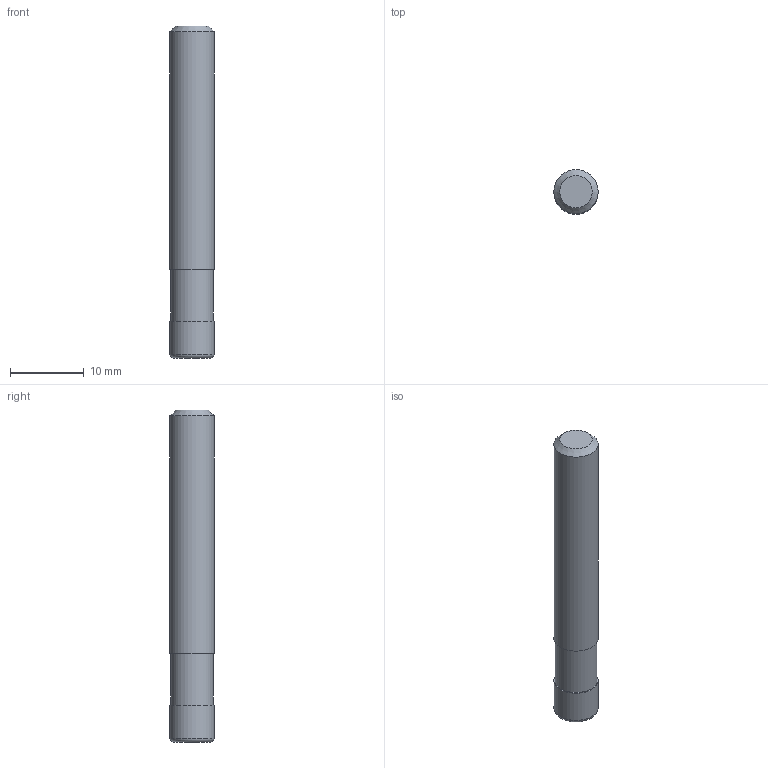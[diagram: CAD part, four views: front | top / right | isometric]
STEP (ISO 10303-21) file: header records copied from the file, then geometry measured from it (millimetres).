
FILE_DESCRIPTION((''),'2;1');
FILE_NAME('C:\Users\nsx150\AppData\Local\Temp\Mastercam 2021\8MCJJJGUOI\TEMP.step','2022-10-12T10:46:52',(''),(''),'STEP Write','Mastercam 2021 ... CNC Software, Inc.','');
FILE_SCHEMA(('AUTOMOTIVE_DESIGN'));
Length unit declared in the file: millimetre
Products named in the file (1): None
Bounding box: 6 x 6 x 45 mm (x, y, z)
Volume: 1246.6 mm3; surface area: 940.9 mm2
Topology: 2 solids, 2 shells, 10 faces, 13 edges, 8 vertices
Faces by surface type: plane 5, cylinder 3, torus 1, cone 1
Full cylindrical faces by diameter (mm): 5.7 x1, 6 x2
Entity records: 232 total; most frequent: DIRECTION 40, CARTESIAN_POINT 28, AXIS2_PLACEMENT_3D 20, ORIENTED_EDGE 16, EDGE_LOOP 16, STYLED_ITEM 13, ADVANCED_FACE 10, FACE_BOUND 10
